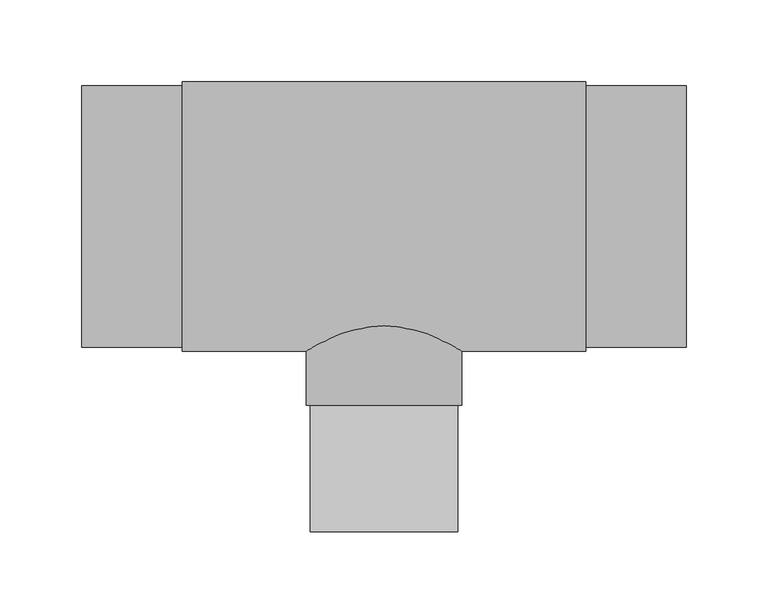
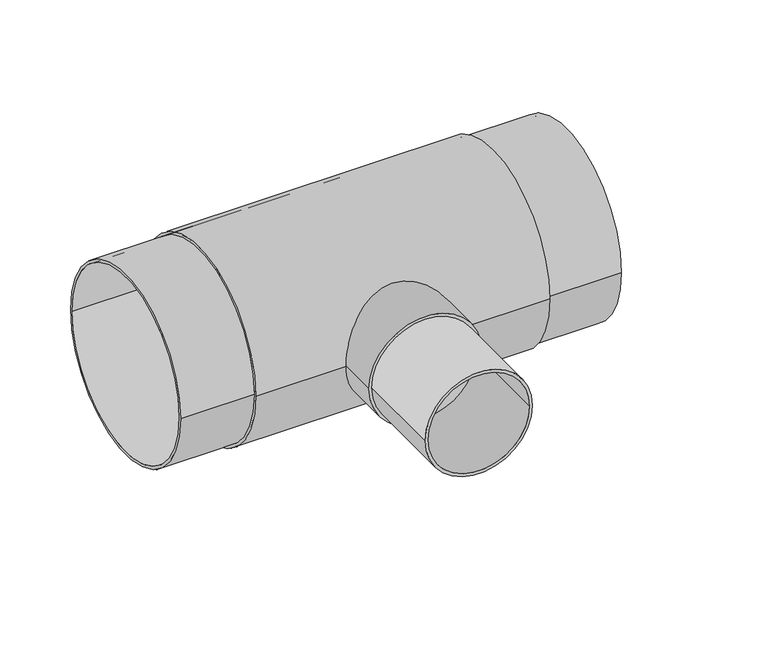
"""IFC4 building model written with IfcOpenShell, lengths in millimetres: pipe fitting geometry, EGB_VASEN_ PPR_Te a tope WXRB300_Te reducida a tope WXRB310 : Te a tope."""

import ifcopenshell
import ifcopenshell.guid

model = None  # the IFC model being written
_history = None  # IfcOwnerHistory: only IFC2X3 demands one
_inside = {}  # id of a spatial element -> (the spatial element, [elements in it])
_under = {}  # id of a project, library or spatial element -> (it, [spatial elements below it])
_declared = {}  # id of a project -> (the project, [libraries it declares])
_typed = {}  # id of a type object -> (the type object, [elements of that type])
_made_of = {}  # id of a material, layer set ... -> (it, [elements and type objects made of it])


def new_model(schema):
    """Start an empty IFC model of exactly this schema.

    Asked for "IFC4X3", IfcOpenShell would pick the latest addendum, in which some entities
    have other attributes; the version numbers below select the first issue.
    IFC2X3 requires an IfcOwnerHistory on every rooted entity: one is made here for all.
    """
    global model, _history
    if schema == "IFC4X3":
        model = ifcopenshell.file(schema_version=(4, 3, 0, 0))
    else:
        model = ifcopenshell.file(schema=schema)
    _inside.clear()
    _under.clear()
    _declared.clear()
    _typed.clear()
    _made_of.clear()
    _history = None
    if model.schema == "IFC2X3":
        org = make("IfcOrganization", Name="unknown")
        user = make(
            "IfcPersonAndOrganization",
            ThePerson=make("IfcPerson", FamilyName="unknown"),
            TheOrganization=org,
        )
        app = make(
            "IfcApplication",
            ApplicationDeveloper=org,
            Version="unknown",
            ApplicationFullName="unknown",
            ApplicationIdentifier="unknown",
        )
        _history = make(
            "IfcOwnerHistory",
            OwningUser=user,
            OwningApplication=app,
            ChangeAction="ADDED",
            CreationDate=0,
        )
    return model


def make(cls, **values):
    """One entity of the class cls with the attributes given. An attribute that is None is left unset."""
    return model.create_entity(
        cls, **{name: value for name, value in values.items() if value is not None}
    )


def rooted(cls, **values):
    """An entity with a GlobalId (a new one), such as an element, a storey or a relation."""
    return make(cls, GlobalId=ifcopenshell.guid.new(), OwnerHistory=_history, **values)


def si_unit(unit_type, name, prefix=None):
    """IfcSIUnit, for example si_unit("LENGTHUNIT", "METRE", prefix="MILLI")."""
    return make("IfcSIUnit", UnitType=unit_type, Prefix=prefix, Name=name)


def assignment(units):
    """IfcUnitAssignment: the units of a project."""
    return None if units is None else make("IfcUnitAssignment", Units=units)


def point(xyz):
    """IfcCartesianPoint."""
    return None if xyz is None else make("IfcCartesianPoint", Coordinates=xyz)


def direction(xyz):
    """IfcDirection."""
    return None if xyz is None else make("IfcDirection", DirectionRatios=xyz)


def frame(location, z_axis=None, x_axis=None):
    """IfcAxis2Placement3D, a coordinate frame: its origin and axes. An axis left out is left unset."""
    return make(
        "IfcAxis2Placement3D",
        Location=point(location),
        Axis=direction(z_axis),
        RefDirection=direction(x_axis),
    )


def frame_2d(location, x_axis=None):
    """IfcAxis2Placement2D, a coordinate frame in the plane: its origin and x axis."""
    return make(
        "IfcAxis2Placement2D", Location=point(location), RefDirection=direction(x_axis)
    )


def origin():
    """The frame at (0, 0, 0) with its axes left unset."""
    return frame((0.0, 0.0, 0.0))


def origin_2d():
    """The frame at (0, 0) in the plane with its x axis left unset."""
    return frame_2d((0.0, 0.0))


def place(relative_to, where):
    """IfcLocalPlacement: puts the frame where relative to a parent placement (None: the world)."""
    return make(
        "IfcLocalPlacement", PlacementRelTo=relative_to, RelativePlacement=where
    )


def context(
    kind, dimensions, precision=None, world=None, true_north=None, identifier=None
):
    """IfcGeometricRepresentationContext, for example the 3D "Model" context."""
    return make(
        "IfcGeometricRepresentationContext",
        ContextIdentifier=identifier,
        ContextType=kind,
        CoordinateSpaceDimension=dimensions,
        Precision=precision,
        WorldCoordinateSystem=world,
        TrueNorth=true_north,
    )


def project(units=None, contexts=None):
    """IfcProject with its units and contexts."""
    return rooted(
        "IfcProject",
        Name="project",
        RepresentationContexts=contexts,
        UnitsInContext=assignment(units),
    )


def spatial(cls, under=None, at=None, **own):
    """A site, building, storey or space (cls), placed at a placement, below another one or the project."""
    s = rooted(cls, ObjectPlacement=at, **own)
    if under is not None:
        _under.setdefault(under.id(), (under, []))[1].append(s)
    return s


def circle_curve(where, radius):
    """IfcCircle in the frame where."""
    return make("IfcCircle", Position=where, Radius=radius)


def trimmed(basis, trim1, trim2, sense, master):
    """IfcTrimmedCurve: the piece of a basis curve between two trims."""
    return make(
        "IfcTrimmedCurve",
        BasisCurve=basis,
        Trim1=trim1,
        Trim2=trim2,
        SenseAgreement=sense,
        MasterRepresentation=master,
    )


def segment(curve, same_sense, transition):
    """IfcCompositeCurveSegment."""
    return make(
        "IfcCompositeCurveSegment",
        Transition=transition,
        SameSense=same_sense,
        ParentCurve=curve,
    )


def composite_curve(segments, self_intersect=None):
    """IfcCompositeCurve: segments joined end to end."""
    return make("IfcCompositeCurve", Segments=segments, SelfIntersect=self_intersect)


def outline(outer, holes=None, kind="AREA"):
    """IfcArbitraryClosedProfileDef: a profile drawn as a closed curve; with holes, ...WithVoids."""
    if holes is None:
        return make("IfcArbitraryClosedProfileDef", ProfileType=kind, OuterCurve=outer)
    return make(
        "IfcArbitraryProfileDefWithVoids",
        ProfileType=kind,
        OuterCurve=outer,
        InnerCurves=holes,
    )


def extrude(swept, where, along, depth):
    """IfcExtrudedAreaSolid: the profile swept, set in the frame where, extruded along a direction by depth."""
    return make(
        "IfcExtrudedAreaSolid",
        SweptArea=swept,
        Position=where,
        ExtrudedDirection=direction(along),
        Depth=depth,
    )


def shape(context_of_items, identifier, shape_type, items):
    """IfcShapeRepresentation: the items that make up one representation, for example the "Body"."""
    return make(
        "IfcShapeRepresentation",
        ContextOfItems=context_of_items,
        RepresentationIdentifier=identifier,
        RepresentationType=shape_type,
        Items=items,
    )


def source(mapping_origin, context_of_items, identifier, shape_type, items):
    """IfcRepresentationMap: a shape defined once, which mapped items show again and again."""
    return make(
        "IfcRepresentationMap",
        MappingOrigin=mapping_origin,
        MappedRepresentation=shape(context_of_items, identifier, shape_type, items),
    )


def transform(
    local_origin,
    x_axis=None,
    y_axis=None,
    z_axis=None,
    scale=None,
    scale2=None,
    scale3=None,
    uniform=True,
):
    """IfcCartesianTransformationOperator3D, or its non-uniform kind. x_axis, y_axis, z_axis: its Axis1, 2, 3."""
    if uniform:
        return make(
            "IfcCartesianTransformationOperator3D",
            Axis1=direction(x_axis),
            Axis2=direction(y_axis),
            LocalOrigin=point(local_origin),
            Scale=scale,
            Axis3=direction(z_axis),
        )
    return make(
        "IfcCartesianTransformationOperator3DnonUniform",
        Axis1=direction(x_axis),
        Axis2=direction(y_axis),
        LocalOrigin=point(local_origin),
        Scale=scale,
        Axis3=direction(z_axis),
        Scale2=scale2,
        Scale3=scale3,
    )


def mapped(mapping_source, mapping_target):
    """IfcMappedItem: shows the shape of a source again, moved by a transform."""
    return make(
        "IfcMappedItem", MappingSource=mapping_source, MappingTarget=mapping_target
    )


def made_of(thing, what):
    """Note that an element or type object is made of a material, layer set ...; save() writes the relation."""
    if what is not None:
        _made_of.setdefault(what.id(), (what, []))[1].append(thing)
    return thing


def element(
    cls,
    number,
    at=None,
    inside=None,
    cuts=None,
    type_object=None,
    material=None,
    context=None,
    identifier="Body",
    shape_type=None,
    held_by="IfcProductDefinitionShape",
    body=None,
    shapes=None,
    **own,
):
    """One element of the class cls, such as IfcWall. Its Tag is "e" and its number.

    at: its placement. inside: the storey or other place that contains it. cuts: it is an
    opening in that element (IfcRelVoidsElement). A single representation is given by context,
    identifier, shape_type and body (its items); several are given by shapes. held_by: the class
    of the entity that holds the representations. save() writes the other relations.
    """
    e = rooted(cls, Tag="e%d" % number, ObjectPlacement=at, **own)
    if body is not None:
        shapes = [shape(context, identifier, shape_type, body)]
    if shapes is not None:
        e.Representation = make(held_by, Representations=shapes)
    if inside is not None:
        _inside.setdefault(inside.id(), (inside, []))[1].append(e)
    if cuts is not None:
        rooted(
            "IfcRelVoidsElement", RelatingBuildingElement=cuts, RelatedOpeningElement=e
        )
    if type_object is not None:
        _typed.setdefault(type_object.id(), (type_object, []))[1].append(e)
    return made_of(e, material)


def aggregate(whole, parts):
    """IfcRelAggregates: a whole, such as a stair, and the parts it consists of."""
    return rooted("IfcRelAggregates", RelatingObject=whole, RelatedObjects=parts)


def save(model, path):
    """Write the relations noted so far, then the file.

    IfcRelAggregates (storeys below a building ...), IfcRelContainedInSpatialStructure (elements
    in a storey), IfcRelDefinesByType, IfcRelAssociatesMaterial and IfcRelDeclares: one each for
    every whole, place, type object, material and project.
    """
    for whole, parts in _under.values():
        aggregate(whole, parts)
    for where, things in _inside.values():
        rooted(
            "IfcRelContainedInSpatialStructure",
            RelatedElements=things,
            RelatingStructure=where,
        )
    for kind, things in _typed.values():
        rooted("IfcRelDefinesByType", RelatedObjects=things, RelatingType=kind)
    for what, things in _made_of.values():
        rooted("IfcRelAssociatesMaterial", RelatedObjects=things, RelatingMaterial=what)
    for by, libraries in _declared.values():
        rooted("IfcRelDeclares", RelatingContext=by, RelatedDefinitions=libraries)
    model.write(path)


def pipe_fitting_a1090e83(model_context):
    return source(origin(), model_context, "Body", "SweptSolid", [
        extrude(outline(composite_curve([segment(trimmed(circle_curve(origin_2d(), 45.0), [point((0.0, 45.0))], [point((0.0, -45.0))], False, "CARTESIAN"), True, "CONTINUOUS"), segment(trimmed(circle_curve(origin_2d(), 45.0), [point((0.0, -45.0))], [point((0.0, 45.0))], False, "CARTESIAN"), True, "CONTINUOUS")], self_intersect=False), holes=[composite_curve([segment(trimmed(circle_curve(origin_2d(), 42.5), [point((0.0, 42.5))], [point((0.0, -42.5))], True, "CARTESIAN"), True, "CONTINUOUS"), segment(trimmed(circle_curve(origin_2d(), 42.5), [point((0.0, -42.5))], [point((0.0, 42.5))], True, "CARTESIAN"), True, "CONTINUOUS")], self_intersect=False)]), frame((0.0, -193.0, 0.0), z_axis=(0.0, 1.0, 0.0), x_axis=(0.0, 0.0, 1.0)), (0.0, 0.0, 1.0), 77.5),
        extrude(outline(composite_curve([segment(trimmed(circle_curve(origin_2d(), 47.5), [point((0.0, 47.5))], [point((0.0, -47.5))], False, "CARTESIAN"), True, "CONTINUOUS"), segment(trimmed(circle_curve(origin_2d(), 47.5), [point((0.0, -47.5))], [point((0.0, 47.5))], False, "CARTESIAN"), True, "CONTINUOUS")], self_intersect=False)), frame((0.0, -115.5, 0.0), z_axis=(0.0, 1.0, 0.0), x_axis=(0.0, 0.0, 1.0)), (0.0, 0.0, 1.0), 115.5),
        extrude(outline(composite_curve([segment(trimmed(circle_curve(origin_2d(), 82.5), [point((-82.5, 0.0))], [point((82.5, 0.0))], False, "CARTESIAN"), True, "CONTINUOUS"), segment(trimmed(circle_curve(origin_2d(), 82.5), [point((82.5, 0.0))], [point((-82.5, 0.0))], False, "CARTESIAN"), True, "CONTINUOUS")], self_intersect=False), holes=[composite_curve([segment(trimmed(circle_curve(origin_2d(), 80.0), [point((-80.0, 0.0))], [point((80.0, 0.0))], True, "CARTESIAN"), True, "CONTINUOUS"), segment(trimmed(circle_curve(origin_2d(), 80.0), [point((80.0, 0.0))], [point((-80.0, 0.0))], True, "CARTESIAN"), True, "CONTINUOUS")], self_intersect=False)]), frame((-123.3333333, 0.0, 0.0), z_axis=(1.0, 0.0, 0.0), x_axis=(0.0, 1.0, 0.0)), (0.0, 0.0, 1.0), 246.6666667),
        extrude(outline(composite_curve([segment(trimmed(circle_curve(origin_2d(), 80.0), [point((-80.0, 0.0))], [point((80.0, 0.0))], False, "CARTESIAN"), True, "CONTINUOUS"), segment(trimmed(circle_curve(origin_2d(), 80.0), [point((80.0, 0.0))], [point((-80.0, 0.0))], False, "CARTESIAN"), True, "CONTINUOUS")], self_intersect=False), holes=[composite_curve([segment(trimmed(circle_curve(origin_2d(), 77.5), [point((-77.5, 0.0))], [point((77.5, 0.0))], True, "CARTESIAN"), True, "CONTINUOUS"), segment(trimmed(circle_curve(origin_2d(), 77.5), [point((77.5, 0.0))], [point((-77.5, 0.0))], True, "CARTESIAN"), True, "CONTINUOUS")], self_intersect=False)]), frame((-185.0, 0.0, 0.0), z_axis=(1.0, 0.0, 0.0), x_axis=(0.0, 1.0, 0.0)), (0.0, 0.0, 1.0), 370.0),
    ])


if __name__ == "__main__":
    model = new_model("IFC4")
    model_context = context("Model", 3, world=origin())
    ifc_project = project(units=[si_unit("LENGTHUNIT", "METRE", prefix="MILLI")], contexts=[model_context])
    site = spatial("IfcSite", under=ifc_project)
    building = spatial("IfcBuilding", under=site)
    placement = place(None, origin())
    pipe_fitting_shape = pipe_fitting_a1090e83(model_context)
    element("IfcPipeFitting", 1, ObjectType="EGB_VASEN_ PPR_Te a tope WXRB300_Te reducida a tope WXRB310 : Te a tope", at=placement, inside=building, context=model_context, shape_type="MappedRepresentation", body=[
        mapped(pipe_fitting_shape, transform((0.0, 0.0, 0.0), x_axis=(1.0, 0.0, 0.0), y_axis=(0.0, 1.0, 0.0), z_axis=(0.0, 0.0, 1.0))),
    ])
    save(model, "model.ifc")
